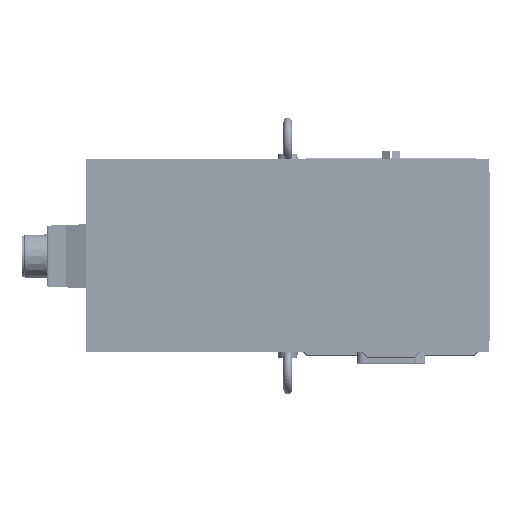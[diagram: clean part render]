
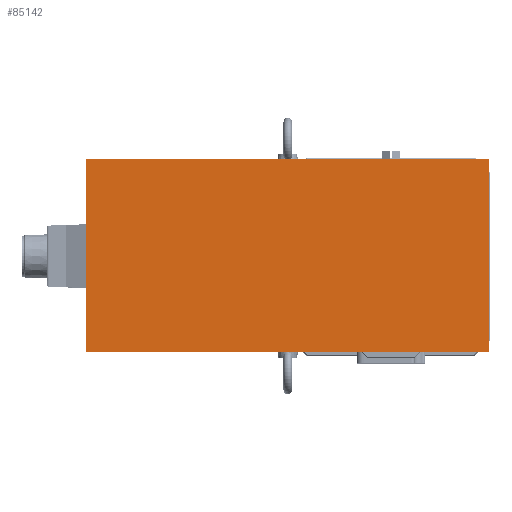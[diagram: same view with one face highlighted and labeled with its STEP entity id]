
A CAD part, top view. The second image highlights one B-rep face of the part: STEP entity #85142.
In plain terms, the highlighted planar face has unit normal (0, 0, 1).
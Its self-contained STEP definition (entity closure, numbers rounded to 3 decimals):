
#85103=CARTESIAN_POINT('',(-75.5,-77.,621.));
#85104=DIRECTION('',(0.,-1.,0.));
#85105=DIRECTION('',(-0.,0.,1.));
#85106=AXIS2_PLACEMENT_3D('',#85103,#85105,#85104);
#85107=PLANE('',#85106);
#85108=CARTESIAN_POINT('',(72.,70.5,621.));
#85109=VERTEX_POINT('',#85108);
#85110=CARTESIAN_POINT('',(-223.,70.5,621.));
#85111=VERTEX_POINT('',#85110);
#85112=CARTESIAN_POINT('',(72.,70.5,621.));
#85113=DIRECTION('',(-1.,0.,0.));
#85114=VECTOR('',#85113,295.);
#85115=LINE('',#85112,#85114);
#85116=EDGE_CURVE('',#85109,#85111,#85115,.T.);
#85117=ORIENTED_EDGE('E1',*,*,#85116,.T.);
#85118=CARTESIAN_POINT('',(-223.,-70.5,621.));
#85119=VERTEX_POINT('',#85118);
#85120=CARTESIAN_POINT('',(-223.,70.5,621.));
#85121=DIRECTION('',(0.,-1.,0.));
#85122=VECTOR('',#85121,141.);
#85123=LINE('',#85120,#85122);
#85124=EDGE_CURVE('',#85111,#85119,#85123,.T.);
#85125=ORIENTED_EDGE('E2',*,*,#85124,.T.);
#85126=CARTESIAN_POINT('',(72.,-70.5,621.));
#85127=VERTEX_POINT('',#85126);
#85128=CARTESIAN_POINT('',(-223.,-70.5,621.));
#85129=DIRECTION('',(1.,0.,0.));
#85130=VECTOR('',#85129,295.);
#85131=LINE('',#85128,#85130);
#85132=EDGE_CURVE('',#85119,#85127,#85131,.T.);
#85133=ORIENTED_EDGE('E3',*,*,#85132,.T.);
#85134=CARTESIAN_POINT('',(72.,-70.5,621.));
#85135=DIRECTION('',(0.,1.,0.));
#85136=VECTOR('',#85135,141.);
#85137=LINE('',#85134,#85136);
#85138=EDGE_CURVE('',#85127,#85109,#85137,.T.);
#85139=ORIENTED_EDGE('E4',*,*,#85138,.T.);
#85140=EDGE_LOOP('',(#85117,#85125,#85133,#85139));
#85141=FACE_OUTER_BOUND('',#85140,.T.);
#85142=ADVANCED_FACE('F1',(#85141),#85107,.T.);
